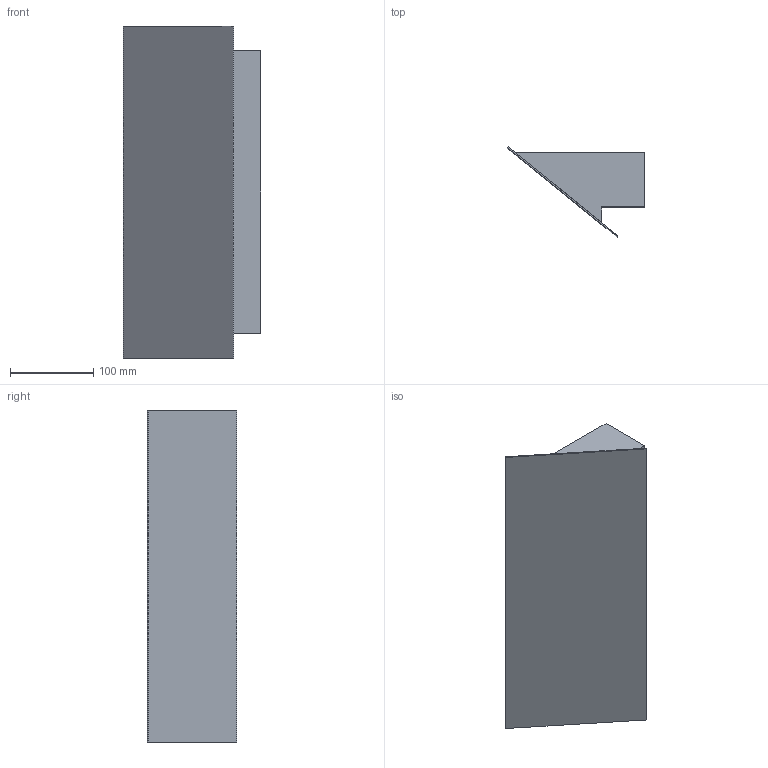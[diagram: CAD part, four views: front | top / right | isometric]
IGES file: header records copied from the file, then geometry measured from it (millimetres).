
Start section: SolidWorks IGES file using analytic representation for surfaces
Global section: file name: C:\Users\joaom\Desktop\02_3D.2D\01_2020\03_Diffuse\02_Aleixo_ok\LED\Aleixo_400\DWG_3D_Aleixo_LED_400.IGS; native system: SolidWorks 2020; preprocessor: SolidWorks 2020; author: joaom; date: 201109.165238; units: millimetre
Bounding box: 165.47 x 108.02 x 400 mm (x, y, z)
Surface area: 207407.1 mm2 (no closed solid volume)
Topology: 0 solids, 0 shells, 12 faces, 54 edges, 54 vertices
Faces by surface type: bspline 12
